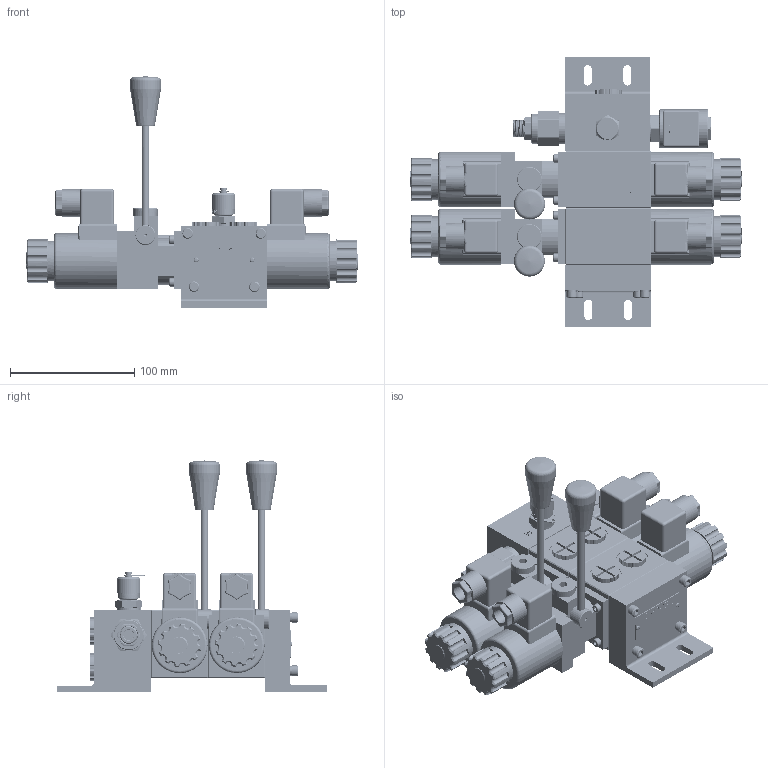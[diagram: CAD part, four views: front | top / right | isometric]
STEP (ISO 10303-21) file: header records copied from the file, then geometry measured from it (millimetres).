
FILE_DESCRIPTION(/* description */ (''),/* implementation_level */ '2;1');
FILE_NAME(/* name */ 'DCF6...-1XJ.stp',/* time_stamp */ '2023-05-23T18:18:42+08:00',/* author */ (''),/* organization */ (''),/* preprocessor_version */ 'ST-DEVELOPER v16.7',/* originating_system */ 'SIEMENS PLM Software NX 12.0',/* authorisation */ '');
FILE_SCHEMA (('AUTOMOTIVE_DESIGN { 1 0 10303 214 3 1 1 1 }'));
Products named in the file (1): DCF6...-1XJ
Bounding box: 267.53 x 218 x 186.51 mm (x, y, z)
Volume: 1400806.6 mm3; surface area: 409009.8 mm2
Topology: 126 solids, 150 shells, 4810 faces, 12014 edges, 7757 vertices
Faces by surface type: cylinder 2195, plane 1646, cone 431, bspline 208, torus 135, extrusion 128, sphere 53, revolution 14
Full cylindrical faces by diameter (mm): 0.5 x2, 1.025 x1, 1.2 x1, 1.325 x1, 1.5 x4, 1.8 x4, 2 x14, 2.2 x3, 2.4 x1, 2.5 x5, 2.55 x22, 3 x165, 3.1 x1, 3.2 x6, 3.3 x1, 3.35 x1, 3.5 x3, 4 x9, 4.1 x1, 4.2 x4, 4.3 x1, 4.4 x6, 4.6 x12, 5 x82, 5.4 x2, 5.5 x4, 5.6 x1, 6 x62, 6.4 x6, 6.6 x2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
Entity records: 366173 total; most frequent: CARTESIAN_POINT 262387, DIRECTION 20673, ORIENTED_EDGE 19290, EDGE_CURVE 9645, AXIS2_PLACEMENT_3D 8440, VERTEX_POINT 6719, EDGE_LOOP 5776, ADVANCED_FACE 4439
